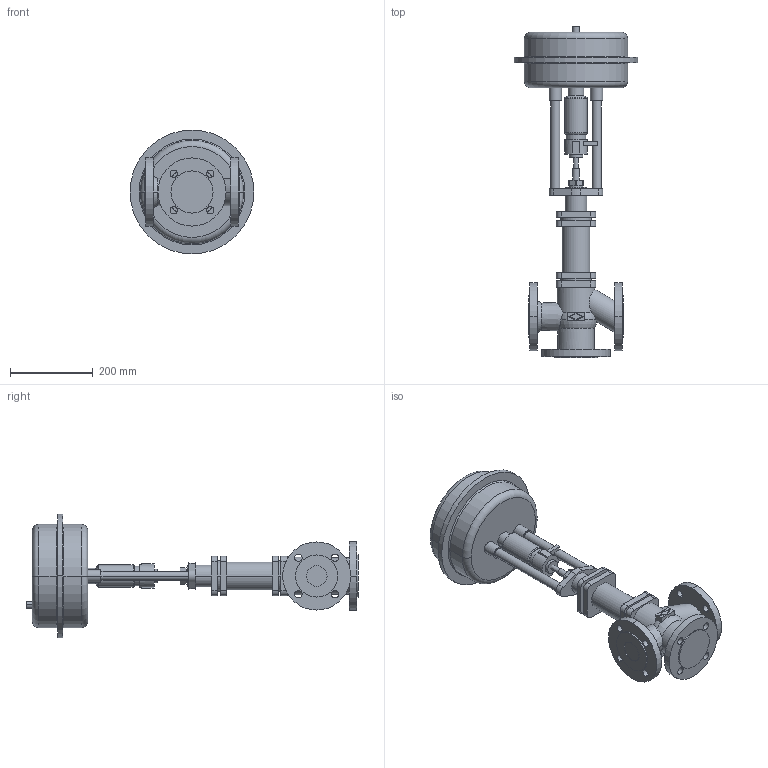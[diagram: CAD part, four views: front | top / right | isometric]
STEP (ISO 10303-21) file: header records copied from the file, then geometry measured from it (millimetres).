
FILE_DESCRIPTION(('OneSpaceDesigner STEP Export'),'2;1');
FILE_NAME('c000000732.stp','2006-09-21T 8:38:13',(''),(''),'OneSpace Designer STEP processor for AP214 (Solid Model)','OneSpace Designer 13.20A 18-Aug-2005 (C) CoCreate Software GmbH','');
FILE_SCHEMA(('AUTOMOTIVE_DESIGN { 1 0 10303 214 1 1 1 1 }'));
Length unit declared in the file: millimetre
Products named in the file (2): 1; 2
Bounding box: 300 x 804.1 x 300 mm (x, y, z)
Volume: 11059406.2 mm3; surface area: 630139.9 mm2
Topology: 2 solids, 2 shells, 245 faces, 600 edges, 393 vertices
Faces by surface type: cylinder 114, plane 101, torus 22, cone 8
Entity records: 6750 total; most frequent: CARTESIAN_POINT 1331, ORIENTED_EDGE 1200, DIRECTION 1014, EDGE_CURVE 600, VERTEX_POINT 393, AXIS2_PLACEMENT_3D 364, EDGE_LOOP 303, VECTOR 286
